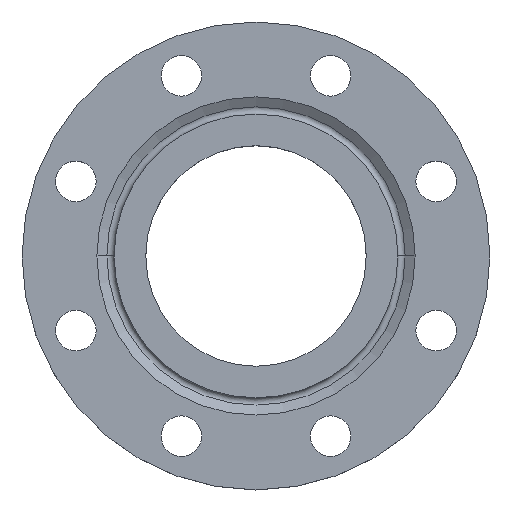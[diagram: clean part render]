
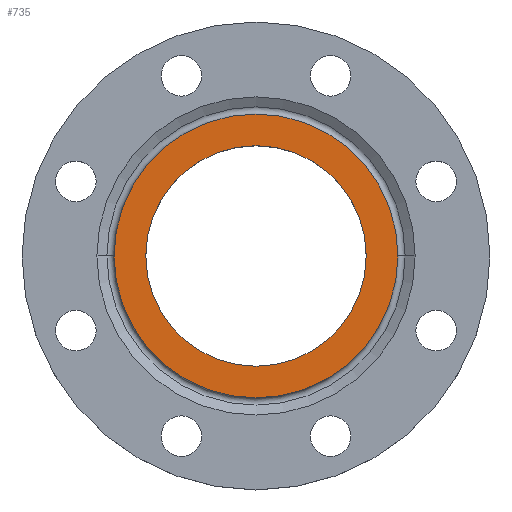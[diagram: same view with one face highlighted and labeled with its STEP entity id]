
A CAD part, top view. The second image highlights one B-rep face of the part: STEP entity #735.
In plain terms, the highlighted planar face has unit normal (0, 0, 1).
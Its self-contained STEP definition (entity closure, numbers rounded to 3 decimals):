
#70 = DIRECTION ( 'NONE',  ( 1., 0., 0. ) ) ;
#72 = DIRECTION ( 'NONE',  ( 0., 0., 1. ) ) ;
#73 = CARTESIAN_POINT ( 'NONE',  ( 0., 0., 0. ) ) ;
#80 = DIRECTION ( 'NONE',  ( -1., 0., 0. ) ) ;
#100 = AXIS2_PLACEMENT_3D ( 'NONE', #241, #410, #80 ) ;
#110 = CARTESIAN_POINT ( 'NONE',  ( 70.67, 0., 0. ) ) ;
#120 = CIRCLE ( 'NONE', #1114, 91. ) ;
#121 = CARTESIAN_POINT ( 'NONE',  ( -70.67, 0., 0. ) ) ;
#136 = VERTEX_POINT ( 'NONE', #614 ) ;
#158 = DIRECTION ( 'NONE',  ( 1., 0., 0. ) ) ;
#160 = DIRECTION ( 'NONE',  ( 0., 0., 1. ) ) ;
#161 = CARTESIAN_POINT ( 'NONE',  ( 0., 0., 0. ) ) ;
#162 = PLANE ( 'NONE',  #686 ) ;
#163 = FACE_OUTER_BOUND ( 'NONE', #894, .T. ) ;
#164 = FACE_BOUND ( 'NONE', #863, .T. ) ;
#199 = EDGE_CURVE ( 'NONE', #564, #136, #120, .T. ) ;
#241 = CARTESIAN_POINT ( 'NONE',  ( 0., 0., 0. ) ) ;
#313 = CARTESIAN_POINT ( 'NONE',  ( 91., 0., 0. ) ) ;
#410 = DIRECTION ( 'NONE',  ( 0., 0., -1. ) ) ;
#411 = CIRCLE ( 'NONE', #601, 70.67 ) ;
#421 = CIRCLE ( 'NONE', #100, 91. ) ;
#478 = CARTESIAN_POINT ( 'NONE',  ( 0., 0., 0. ) ) ;
#523 = AXIS2_PLACEMENT_3D ( 'NONE', #478, #725, #1073 ) ;
#526 = CIRCLE ( 'NONE', #523, 70.67 ) ;
#564 = VERTEX_POINT ( 'NONE', #313 ) ;
#601 = AXIS2_PLACEMENT_3D ( 'NONE', #73, #72, #70 ) ;
#614 = CARTESIAN_POINT ( 'NONE',  ( -91., 0., 0. ) ) ;
#637 = CARTESIAN_POINT ( 'NONE',  ( 0., 0., 0. ) ) ;
#638 = DIRECTION ( 'NONE',  ( 0., 0., -1. ) ) ;
#639 = DIRECTION ( 'NONE',  ( -1., 0., 0. ) ) ;
#686 = AXIS2_PLACEMENT_3D ( 'NONE', #161, #160, #158 ) ;
#725 = DIRECTION ( 'NONE',  ( 0., 0., 1. ) ) ;
#735 = ADVANCED_FACE ( 'NONE', ( #164, #163 ), #162, .T. ) ;
#758 = VERTEX_POINT ( 'NONE', #121 ) ;
#767 = VERTEX_POINT ( 'NONE', #110 ) ;
#811 = EDGE_CURVE ( 'NONE', #767, #758, #411, .T. ) ;
#863 = EDGE_LOOP ( 'NONE', ( #958, #959 ) ) ;
#894 = EDGE_LOOP ( 'NONE', ( #961, #962 ) ) ;
#947 = EDGE_CURVE ( 'NONE', #136, #564, #421, .T. ) ;
#958 = ORIENTED_EDGE ( 'NONE', *, *, #811, .F. ) ;
#959 = ORIENTED_EDGE ( 'NONE', *, *, #1065, .F. ) ;
#961 = ORIENTED_EDGE ( 'NONE', *, *, #947, .F. ) ;
#962 = ORIENTED_EDGE ( 'NONE', *, *, #199, .F. ) ;
#1065 = EDGE_CURVE ( 'NONE', #758, #767, #526, .T. ) ;
#1073 = DIRECTION ( 'NONE',  ( 1., 0., 0. ) ) ;
#1114 = AXIS2_PLACEMENT_3D ( 'NONE', #637, #638, #639 ) ;
